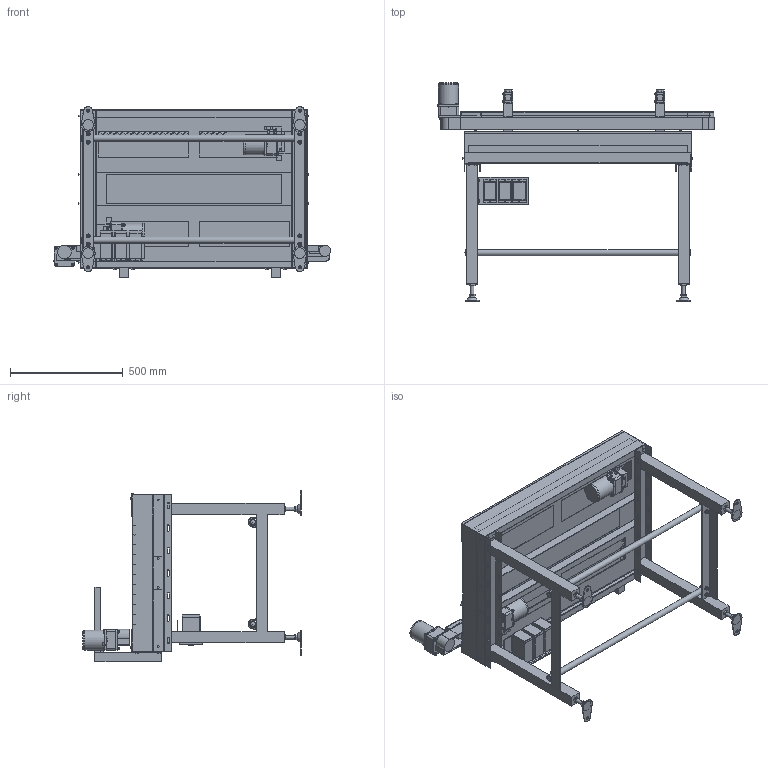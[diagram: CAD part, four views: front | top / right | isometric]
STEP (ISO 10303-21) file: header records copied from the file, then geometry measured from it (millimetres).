
FILE_DESCRIPTION (( 'STEP AP214' ), '1' );
FILE_NAME ('SGA-500-R-B.STEP', '2022-04-12T00:33:00', ( '' ), ( '' ), 'SwSTEP 2.0', 'SolidWorks 2017', '' );
FILE_SCHEMA (( 'AUTOMOTIVE_DESIGN' ));
Length unit declared in the file: millimetre
Products named in the file (18): SK-34-WH; SWD-UBM540-403-E2+5GN3-18K_t4; VFD001L21A_WEB図; SWD-SGA-S-郯讜擾500暆; SWD-SGA-S-ｻｲﾄﾞﾍﾞﾔ_500両側飛出し; SWD-AJ-020(75mm); SGA-500-R-B; SWD-SGA-S-娃敖腾把_500暆; SWD-SGA-S-端囂啞; SWD-SGA-S-原動カバー; SWD-SGA-S-徊霓娃詭x帩; SWD-SGA-衛動葀杺_990; SWD-SGA-S-端囂啞枌袡紕; SWD-SGA-S-原動部; SWD-U-010 Assy_固定板t6; SWD-UBM540-403-E2+5GN3-18K; SWD-SGA-S-ﾃｰｸｱｯﾌﾟ; SWD-SGA-S-脚_500幅
Assembly tree (30 placements, depth 3):
  SGA-500-R-B
    SWD-SGA-S-娃敖腾把_500暆
    SWD-SGA-S-郯讜擾500暆
    SWD-SGA-S-脚_500幅  x2
    SWD-AJ-020(75mm)  x4
    SWD-U-010 Assy_固定板t6  x4
    SWD-SGA-衛動葀杺_990  x2
    SWD-SGA-S-原動部  x2
      SWD-UBM540-403-E2+5GN3-18K_t4
      SWD-SGA-S-原動カバー
      SWD-SGA-S-ﾃｰｸｱｯﾌﾟ
    SWD-SGA-S-端囂啞
      SWD-SGA-S-端囂啞枌袡紕
      VFD001L21A_WEB図  x3
    SWD-SGA-S-徊霓娃詭x帩  x2
    SK-34-WH  x2
    SWD-SGA-S-ｻｲﾄﾞﾍﾞﾔ_500両側飛出し
    SWD-UBM540-403-E2+5GN3-18K
Bounding box: 1229.23 x 969.4 x 760 mm (x, y, z)
Volume: 29481752.9 mm3; surface area: 6860545.6 mm2
Topology: 84 solids, 85 shells, 2788 faces, 6891 edges, 4443 vertices
Faces by surface type: plane 1916, cylinder 580, cone 167, bspline 64, torus 38, sphere 23
Full cylindrical faces by diameter (mm): 2 x3, 4.5 x6, 5 x14, 5.5 x3, 6 x34, 6.5 x24, 6.6 x12, 7 x8, 8 x18, 8.49 x3, 9 x8, 10 x12, 10.5 x1, 11.5 x2, 12 x3, 12.2 x2, 12.5 x12, 13 x4, 16 x10, 17 x8, 20 x2, 22 x1, 27.2 x2, 28 x4, 36 x3, 40 x4, 50 x2, 83 x3, 84 x3, 86.3 x3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
Entity records: 60526 total; most frequent: CARTESIAN_POINT 10969, ORIENTED_EDGE 8560, DIRECTION 8476, EDGE_CURVE 4280, VECTOR 3238, LINE 3238, VERTEX_POINT 2880, AXIS2_PLACEMENT_3D 2619
